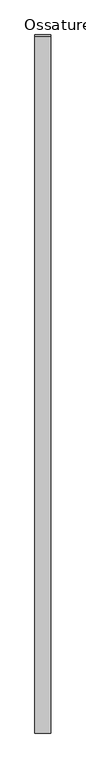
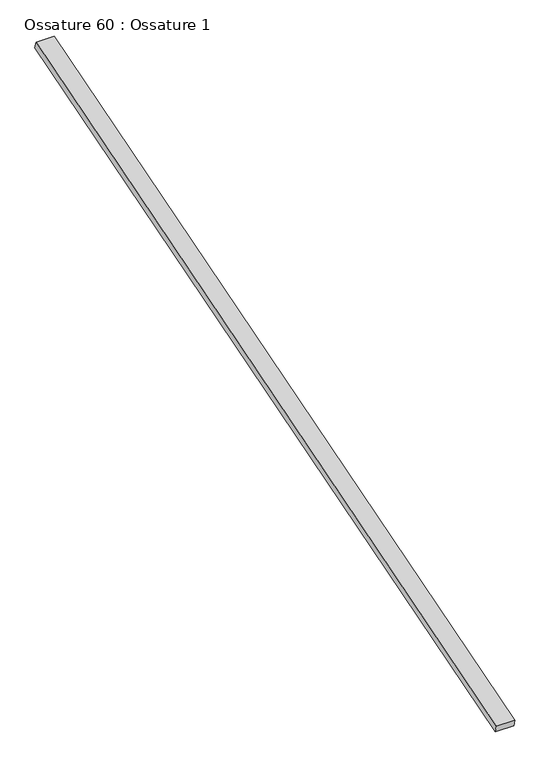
"""IFC4 building model written with IfcOpenShell, lengths in millimetres: beam geometry, Ossature 60 : Ossature 1."""

from ifc_helpers import new_model, si_unit, frame, origin, place, context, project, spatial, polyline, outline, extrude, source, transform, mapped, element, save


def ossature_60_ossature_1_15f046fe(model_context):
    return source(origin(), model_context, "Body", "SweptSolid", [
        extrude(outline(polyline([(0.0, 0.0), (0.0, -4543.0299679), (-100.0, -4543.0299679), (-100.0, 0.0), (0.0, 0.0)])), frame((14583.6466393, -833.3913565, 8153.6336115), z_axis=(0.0, -0.28734788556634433, 0.9578262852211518), x_axis=(-1.0, 0.0, 0.0)), (0.0, 0.0, 1.0), 40.0),
    ])


if __name__ == "__main__":
    model = new_model("IFC4")
    model_context = context("Model", 3, world=origin())
    ifc_project = project(units=[si_unit("LENGTHUNIT", "METRE", prefix="MILLI")], contexts=[model_context])
    site = spatial("IfcSite", under=ifc_project)
    building = spatial("IfcBuilding", under=site)
    placement = place(None, origin())
    ossature_60_ossature_1_shape = ossature_60_ossature_1_15f046fe(model_context)
    element("IfcBeam", 1, ObjectType="Ossature 60 : Ossature 1", at=placement, inside=building, context=model_context, shape_type="MappedRepresentation", body=[
        mapped(ossature_60_ossature_1_shape, transform((0.0, 0.0, 0.0), x_axis=(1.0, 0.0, 0.0), y_axis=(0.0, 1.0, 0.0), z_axis=(0.0, 0.0, 1.0))),
    ])
    save(model, "model.ifc")
